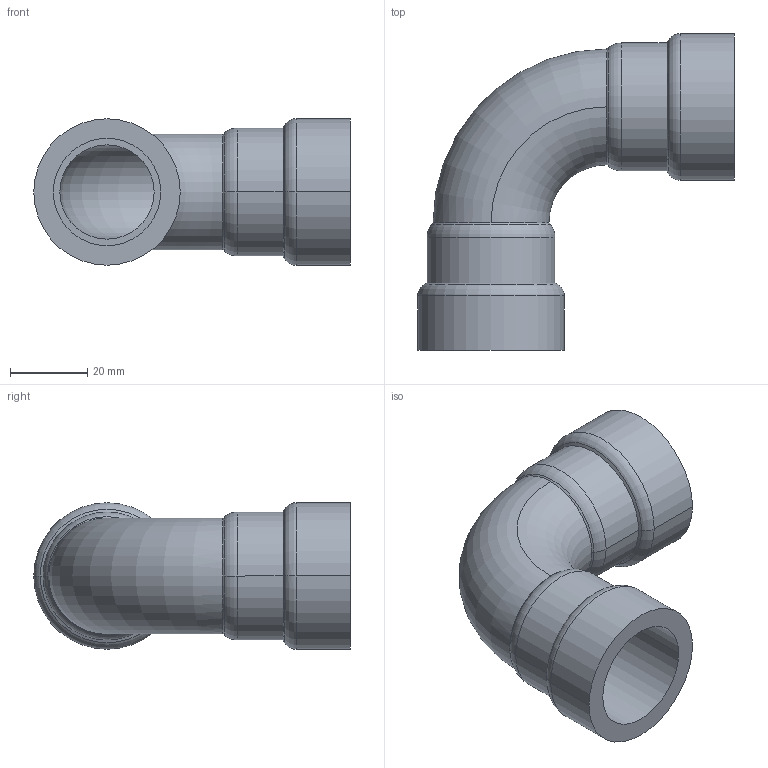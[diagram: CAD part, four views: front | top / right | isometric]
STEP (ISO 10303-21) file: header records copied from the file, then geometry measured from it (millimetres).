
FILE_DESCRIPTION(('Creo Elements/Direct Modeling STEP Export'),'2;1');
FILE_NAME('C9408_3-4.stp','2020-06-23T14:47:16',(''),(''),'PTC Creo Elements/Direct Modeling STEP processor for AP214 (Solid Model)','PTC Creo Elements/Direct Modeling 19.0C 15-Aug-2015 (C) Parametric Technology GmbH','');
FILE_SCHEMA(('AUTOMOTIVE_DESIGN { 1 0 10303 214 1 1 1 1 }'));
Length unit declared in the file: millimetre
Products named in the file (1): 9408
Bounding box: 81.9 x 81.9 x 37.9 mm (x, y, z)
Volume: 36672.4 mm3; surface area: 22749 mm2
Topology: 1 solids, 1 shells, 40 faces, 88 edges, 52 vertices
Faces by surface type: cylinder 16, torus 12, cone 8, plane 4
Entity records: 1501 total; most frequent: CARTESIAN_POINT 648, DIRECTION 176, ORIENTED_EDGE 176, EDGE_CURVE 88, AXIS2_PLACEMENT_3D 76, VERTEX_POINT 52, EDGE_LOOP 44, FACE_OUTER_BOUND 40
